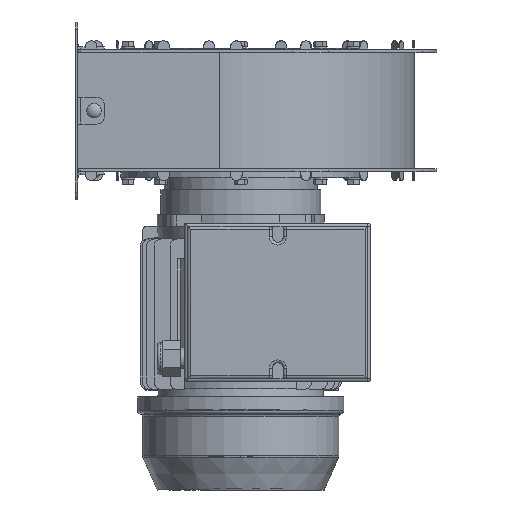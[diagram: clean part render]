
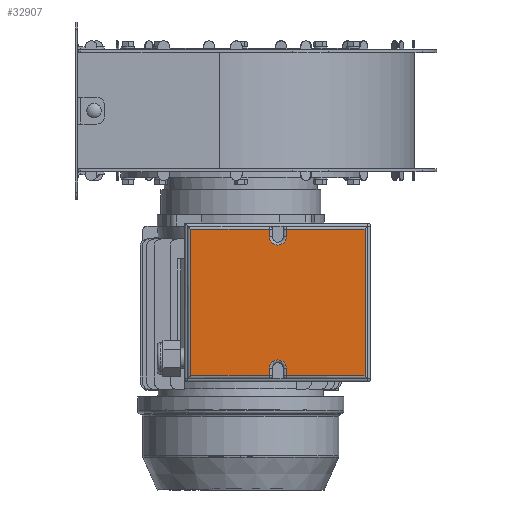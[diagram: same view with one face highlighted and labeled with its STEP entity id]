
A CAD part, front view. The second image highlights one B-rep face of the part: STEP entity #32907.
In plain terms, the highlighted planar face has unit normal (0, -1, 0).
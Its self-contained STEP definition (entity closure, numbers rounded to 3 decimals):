
#2135=PLANE('',#35348);
#3567=FACE_OUTER_BOUND('',#5893,.T.);
#5893=EDGE_LOOP('',(#25661,#25662,#25663,#25664,#25665,#25666,#25667,#25668,
#25669,#25670,#25671,#25672));
#8685=LINE('',#51749,#11443);
#8686=LINE('',#51760,#11444);
#8693=LINE('',#51799,#11451);
#8694=LINE('',#51803,#11452);
#8695=LINE('',#51805,#11453);
#8696=LINE('',#51807,#11454);
#8697=LINE('',#51809,#11455);
#8698=LINE('',#51813,#11456);
#8699=LINE('',#51815,#11457);
#8700=LINE('',#51816,#11458);
#11443=VECTOR('',#41640,0.525);
#11444=VECTOR('',#41653,0.525);
#11451=VECTOR('',#41678,5.425);
#11452=VECTOR('',#41683,5.425);
#11453=VECTOR('',#41684,10.1);
#11454=VECTOR('',#41685,5.425);
#11455=VECTOR('',#41686,0.525);
#11456=VECTOR('',#41689,0.525);
#11457=VECTOR('',#41690,5.425);
#11458=VECTOR('',#41691,10.1);
#12973=CIRCLE('',#35334,0.575);
#12980=CIRCLE('',#35349,0.575);
#15168=VERTEX_POINT('',#51743);
#15170=VERTEX_POINT('',#51747);
#15172=VERTEX_POINT('',#51752);
#15174=VERTEX_POINT('',#51758);
#15181=VERTEX_POINT('',#51798);
#15182=VERTEX_POINT('',#51802);
#15183=VERTEX_POINT('',#51804);
#15184=VERTEX_POINT('',#51806);
#15185=VERTEX_POINT('',#51808);
#15186=VERTEX_POINT('',#51810);
#15187=VERTEX_POINT('',#51812);
#15188=VERTEX_POINT('',#51814);
#18876=EDGE_CURVE('',#15170,#15168,#8685,.T.);
#18878=EDGE_CURVE('',#15172,#15170,#12973,.T.);
#18881=EDGE_CURVE('',#15174,#15172,#8686,.T.);
#18893=EDGE_CURVE('',#15168,#15181,#8693,.T.);
#18895=EDGE_CURVE('',#15182,#15174,#8694,.T.);
#18896=EDGE_CURVE('',#15183,#15182,#8695,.T.);
#18897=EDGE_CURVE('',#15184,#15183,#8696,.T.);
#18898=EDGE_CURVE('',#15185,#15184,#8697,.T.);
#18899=EDGE_CURVE('',#15186,#15185,#12980,.T.);
#18900=EDGE_CURVE('',#15187,#15186,#8698,.T.);
#18901=EDGE_CURVE('',#15188,#15187,#8699,.T.);
#18902=EDGE_CURVE('',#15181,#15188,#8700,.T.);
#25661=ORIENTED_EDGE('',*,*,#18876,.F.);
#25662=ORIENTED_EDGE('',*,*,#18878,.F.);
#25663=ORIENTED_EDGE('',*,*,#18881,.F.);
#25664=ORIENTED_EDGE('',*,*,#18895,.F.);
#25665=ORIENTED_EDGE('',*,*,#18896,.F.);
#25666=ORIENTED_EDGE('',*,*,#18897,.F.);
#25667=ORIENTED_EDGE('',*,*,#18898,.F.);
#25668=ORIENTED_EDGE('',*,*,#18899,.F.);
#25669=ORIENTED_EDGE('',*,*,#18900,.F.);
#25670=ORIENTED_EDGE('',*,*,#18901,.F.);
#25671=ORIENTED_EDGE('',*,*,#18902,.F.);
#25672=ORIENTED_EDGE('',*,*,#18893,.F.);
#32907=ADVANCED_FACE('',(#3567),#2135,.T.);
#35334=AXIS2_PLACEMENT_3D('',#51754,#41645,#41646);
#35348=AXIS2_PLACEMENT_3D('',#51801,#41681,#41682);
#35349=AXIS2_PLACEMENT_3D('',#51811,#41687,#41688);
#41640=DIRECTION('',(0.,0.,1.));
#41645=DIRECTION('center_axis',(0.,-1.,0.));
#41646=DIRECTION('ref_axis',(0.,0.,
-1.));
#41653=DIRECTION('',(0.,0.,-1.));
#41678=DIRECTION('',(1.,0.,0.));
#41681=DIRECTION('center_axis',(0.,-1.,0.));
#41682=DIRECTION('ref_axis',(0.,0.,1.));
#41683=DIRECTION('',(1.,0.,0.));
#41684=DIRECTION('',(0.,0.,1.));
#41685=DIRECTION('',(-1.,0.,0.));
#41686=DIRECTION('',(0.,0.,-1.));
#41687=DIRECTION('center_axis',(0.,-1.,0.));
#41688=DIRECTION('ref_axis',(0.,0.,
1.));
#41689=DIRECTION('',(0.,0.,1.));
#41690=DIRECTION('',(-1.,0.,0.));
#41691=DIRECTION('',(0.,0.,-1.));
#51743=CARTESIAN_POINT('',(3.125,-13.3,-3.95));
#51747=CARTESIAN_POINT('',(3.125,-13.3,-4.475));
#51749=CARTESIAN_POINT('',(3.125,-13.3,-4.113));
#51752=CARTESIAN_POINT('',(1.975,-13.3,-4.475));
#51754=CARTESIAN_POINT('Origin',(2.55,-13.3,-4.475));
#51758=CARTESIAN_POINT('',(1.975,-13.3,-3.95));
#51760=CARTESIAN_POINT('',(1.975,-13.3,-3.75));
#51798=CARTESIAN_POINT('',(8.55,-13.3,-3.95));
#51799=CARTESIAN_POINT('',(5.1,-13.3,-3.95));
#51801=CARTESIAN_POINT('Origin',(6.55,-13.3,-3.75));
#51802=CARTESIAN_POINT('',(-3.45,-13.3,-3.95));
#51803=CARTESIAN_POINT('',(5.1,-13.3,-3.95));
#51804=CARTESIAN_POINT('',(-3.45,-13.3,-14.05));
#51805=CARTESIAN_POINT('',(-3.45,-13.3,-3.75));
#51806=CARTESIAN_POINT('',(1.975,-13.3,-14.05));
#51807=CARTESIAN_POINT('',(7.1,-13.3,-14.05));
#51808=CARTESIAN_POINT('',(1.975,-13.3,-13.525));
#51809=CARTESIAN_POINT('',(1.975,-13.3,-8.638));
#51810=CARTESIAN_POINT('',(3.125,-13.3,-13.525));
#51811=CARTESIAN_POINT('Origin',(2.55,-13.3,-13.525));
#51812=CARTESIAN_POINT('',(3.125,-13.3,-14.05));
#51813=CARTESIAN_POINT('',(3.125,-13.3,-9.));
#51814=CARTESIAN_POINT('',(8.55,-13.3,-14.05));
#51815=CARTESIAN_POINT('',(7.1,-13.3,-14.05));
#51816=CARTESIAN_POINT('',(8.55,-13.3,-3.75));
